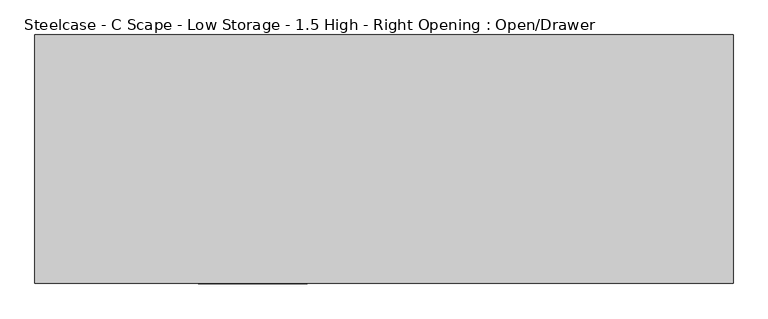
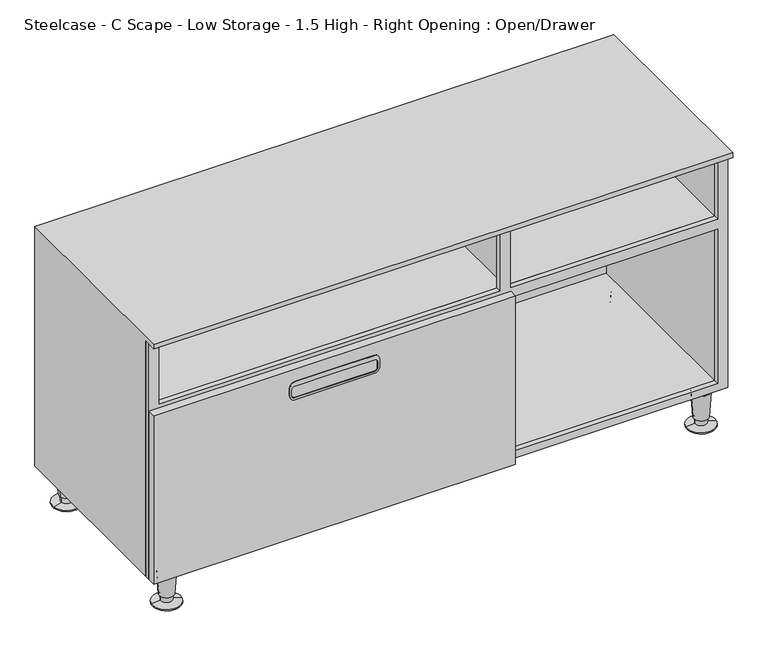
"""IFC4 building model written with IfcOpenShell, lengths in millimetres: furniture geometry, Steelcase - C Scape - Low Storage - 1.5 High - Right Opening : Open/Drawer."""

from ifc_helpers import new_model, si_unit, point, frame, frame_2d, origin, place, context, project, spatial, polyline, circle_curve, trimmed, segment, composite_curve, outline, extrude, faceted_brep, source, transform, mapped, element, save
from ifc_brep_helpers import plane_surface, cylinder_surface, revolved_surface, advanced_brep


def steelcase_c_scape_low_storage_1_5_high_right_opening_open_8f6e77f2(model_context):
    return source(origin(), model_context, "Body", "SolidModel", [
        advanced_brep(
        [(1200.2097985, -403.1210225, 0.0), (1141.9877015, -394.2130493, 0.0), (1171.09875, -398.6670359, 0.0), (1200.2097985, -403.1210225, 2.5119506), (1141.9877015, -394.2130493, 2.5119506), (1182.860915, -400.4666456, 5.7545598), (1159.336585, -396.8674262, 5.7545598), (1183.5496845, -400.5720272, 19.05), (1158.6478155, -396.7620445, 19.05), (1185.9792714, -400.9437537, 19.05), (1156.2182286, -396.3903181, 19.05), (1189.9296195, -401.5481565, 76.2), (1152.2678805, -395.7859153, 76.2), (1171.09875, -398.6670359, 76.2)],
        [
            (0, 1, circle_curve(frame((1171.09875, -398.6670359, 0.0), z_axis=(0.0, 0.0, -1.0), x_axis=(0.0, 1.0, 0.0)), 29.4498071)),
            (1, 2),
            (2, 0),
            (1, 0, circle_curve(frame((1171.09875, -398.6670359, 0.0), z_axis=(0.0, 0.0, -1.0), x_axis=(0.0, 1.0, 0.0)), 29.4498071)),
            (3, 4, circle_curve(frame((1171.09875, -398.6670359, 2.5119506), z_axis=(0.0, 0.0, -1.0), x_axis=(0.0, 1.0, 0.0)), 29.4498071)),
            (4, 1),
            (0, 3),
            (4, 3, circle_curve(frame((1171.09875, -398.6670359, 2.5119506), z_axis=(0.0, 0.0, -1.0), x_axis=(0.0, 1.0, 0.0)), 29.4498071)),
            (5, 6, circle_curve(frame((1171.09875, -398.6670359, 5.7545598), z_axis=(0.0, 0.0, -1.0), x_axis=(0.0, 1.0, 0.0)), 11.8990387)),
            (6, 4),
            (3, 5),
            (6, 5, circle_curve(frame((1171.09875, -398.6670359, 5.7545598), z_axis=(0.0, 0.0, -1.0), x_axis=(0.0, 1.0, 0.0)), 11.8990387)),
            (7, 8, circle_curve(frame((1171.09875, -398.6670359, 19.05), z_axis=(0.0, 0.0, -1.0), x_axis=(0.0, 1.0, 0.0)), 12.5958232)),
            (8, 6),
            (5, 7),
            (8, 7, circle_curve(frame((1171.09875, -398.6670359, 19.05), z_axis=(0.0, 0.0, -1.0), x_axis=(0.0, 1.0, 0.0)), 12.5958232)),
            (9, 10, circle_curve(frame((1171.09875, -398.6670359, 19.05), z_axis=(0.0, 0.0, -1.0), x_axis=(0.0, 1.0, 0.0)), 15.0536827)),
            (10, 8),
            (7, 9),
            (10, 9, circle_curve(frame((1171.09875, -398.6670359, 19.05), z_axis=(0.0, 0.0, -1.0), x_axis=(0.0, 1.0, 0.0)), 15.0536827)),
            (11, 12, circle_curve(frame((1171.09875, -398.6670359, 76.2), z_axis=(0.0, 0.0, -1.0), x_axis=(0.0, 1.0, 0.0)), 19.05)),
            (12, 10),
            (9, 11),
            (12, 11, circle_curve(frame((1171.09875, -398.6670359, 76.2), z_axis=(0.0, 0.0, -1.0), x_axis=(0.0, 1.0, 0.0)), 19.05)),
            (13, 12),
            (11, 13),
        ],
        [
            plane_surface(frame((1171.09875, -398.6670359, 0.0), z_axis=(0.0, 0.0, -1.0), x_axis=(0.0, 1.0, 0.0))),
            cylinder_surface(frame((1171.09875, -398.6670359, 25.4), z_axis=(0.0, 0.0, 1.0), x_axis=(0.0, 1.0, 0.0)), 29.4498071),
            revolved_surface(polyline([(1171.09875, -369.2172288, 2.5119506), (1171.09875, -386.7679972, 5.7545598)]), (1171.09875, -398.6670359, 25.4), (0.0, 0.0, 1.0)),
            revolved_surface(polyline([(1171.09875, -386.7679972, 5.7545598), (1171.09875, -386.0712127, 19.05)]), (1171.09875, -398.6670359, 25.4), (0.0, 0.0, 1.0)),
            plane_surface(frame((1171.09875, -398.6670359, 19.05), z_axis=(0.0, 0.0, -1.0), x_axis=(0.0, 1.0, 0.0))),
            revolved_surface(polyline([(1171.09875, -383.6133532, 19.05), (1171.09875, -379.6170359, 76.2)]), (1171.09875, -398.6670359, 25.4), (0.0, 0.0, 1.0)),
            plane_surface(frame((1171.09875, -398.6670359, 76.2), z_axis=(0.0, 0.0, 1.0), x_axis=(0.0, 1.0, 0.0))),
        ],
        [
            (0, [[1, 2, 3]]),
            (0, [[4, -3, -2]]),
            (1, [[5, 6, -1, 7]]),
            (1, [[8, -7, -4, -6]]),
            (2, [[9, 10, -5, 11]]),
            (2, [[12, -11, -8, -10]]),
            (3, [[13, 14, -9, 15]]),
            (3, [[16, -15, -12, -14]]),
            (4, [[17, 18, -13, 19]]),
            (4, [[20, -19, -16, -18]]),
            (5, [[21, 22, -17, 23]]),
            (5, [[24, -23, -20, -22]]),
            (6, [[25, -21, 26]]),
            (6, [[-26, -24, -25]]),
        ],
    ),
        advanced_brep(
        [(75.8224611, -403.1210225, 0.0), (17.6003641, -394.2130493, 0.0), (46.7114126, -398.6670359, 0.0), (75.8224611, -403.1210225, 2.5119506), (17.6003641, -394.2130493, 2.5119506), (58.4735776, -400.4666456, 5.7545598), (34.9492476, -396.8674262, 5.7545598), (59.1623471, -400.5720272, 19.05), (34.2604781, -396.7620445, 19.05), (61.5919341, -400.9437537, 19.05), (31.8308912, -396.3903181, 19.05), (65.5422821, -401.5481565, 76.2), (27.8805432, -395.7859153, 76.2), (46.7114126, -398.6670359, 76.2)],
        [
            (0, 1, circle_curve(frame((46.7114126, -398.6670359, 0.0), z_axis=(0.0, 0.0, -1.0), x_axis=(0.0, 1.0, 0.0)), 29.4498071)),
            (1, 2),
            (2, 0),
            (1, 0, circle_curve(frame((46.7114126, -398.6670359, 0.0), z_axis=(0.0, 0.0, -1.0), x_axis=(0.0, 1.0, 0.0)), 29.4498071)),
            (3, 4, circle_curve(frame((46.7114126, -398.6670359, 2.5119506), z_axis=(0.0, 0.0, -1.0), x_axis=(0.0, 1.0, 0.0)), 29.4498071)),
            (4, 1),
            (0, 3),
            (4, 3, circle_curve(frame((46.7114126, -398.6670359, 2.5119506), z_axis=(0.0, 0.0, -1.0), x_axis=(0.0, 1.0, 0.0)), 29.4498071)),
            (5, 6, circle_curve(frame((46.7114126, -398.6670359, 5.7545598), z_axis=(0.0, 0.0, -1.0), x_axis=(0.0, 1.0, 0.0)), 11.8990387)),
            (6, 4),
            (3, 5),
            (6, 5, circle_curve(frame((46.7114126, -398.6670359, 5.7545598), z_axis=(0.0, 0.0, -1.0), x_axis=(0.0, 1.0, 0.0)), 11.8990387)),
            (7, 8, circle_curve(frame((46.7114126, -398.6670359, 19.05), z_axis=(0.0, 0.0, -1.0), x_axis=(0.0, 1.0, 0.0)), 12.5958232)),
            (8, 6),
            (5, 7),
            (8, 7, circle_curve(frame((46.7114126, -398.6670359, 19.05), z_axis=(0.0, 0.0, -1.0), x_axis=(0.0, 1.0, 0.0)), 12.5958232)),
            (9, 10, circle_curve(frame((46.7114126, -398.6670359, 19.05), z_axis=(0.0, 0.0, -1.0), x_axis=(0.0, 1.0, 0.0)), 15.0536827)),
            (10, 8),
            (7, 9),
            (10, 9, circle_curve(frame((46.7114126, -398.6670359, 19.05), z_axis=(0.0, 0.0, -1.0), x_axis=(0.0, 1.0, 0.0)), 15.0536827)),
            (11, 12, circle_curve(frame((46.7114126, -398.6670359, 76.2), z_axis=(0.0, 0.0, -1.0), x_axis=(0.0, 1.0, 0.0)), 19.05)),
            (12, 10),
            (9, 11),
            (12, 11, circle_curve(frame((46.7114126, -398.6670359, 76.2), z_axis=(0.0, 0.0, -1.0), x_axis=(0.0, 1.0, 0.0)), 19.05)),
            (13, 12),
            (11, 13),
        ],
        [
            plane_surface(frame((46.7114126, -398.6670359, 0.0), z_axis=(0.0, 0.0, -1.0), x_axis=(0.0, 1.0, 0.0))),
            cylinder_surface(frame((46.7114126, -398.6670359, 25.4), z_axis=(0.0, 0.0, 1.0), x_axis=(0.0, 1.0, 0.0)), 29.4498071),
            revolved_surface(polyline([(46.7114126, -369.2172288, 2.5119506), (46.7114126, -386.7679972, 5.7545598)]), (46.7114126, -398.6670359, 25.4), (0.0, 0.0, 1.0)),
            revolved_surface(polyline([(46.7114126, -386.7679972, 5.7545598), (46.7114126, -386.0712127, 19.05)]), (46.7114126, -398.6670359, 25.4), (0.0, 0.0, 1.0)),
            plane_surface(frame((46.7114126, -398.6670359, 19.05), z_axis=(0.0, 0.0, -1.0), x_axis=(0.0, 1.0, 0.0))),
            revolved_surface(polyline([(46.7114126, -383.6133532, 19.05), (46.7114126, -379.6170359, 76.2)]), (46.7114126, -398.6670359, 25.4), (0.0, 0.0, 1.0)),
            plane_surface(frame((46.7114126, -398.6670359, 76.2), z_axis=(0.0, 0.0, 1.0), x_axis=(0.0, 1.0, 0.0))),
        ],
        [
            (0, [[1, 2, 3]]),
            (0, [[4, -3, -2]]),
            (1, [[5, 6, -1, 7]]),
            (1, [[8, -7, -4, -6]]),
            (2, [[9, 10, -5, 11]]),
            (2, [[12, -11, -8, -10]]),
            (3, [[13, 14, -9, 15]]),
            (3, [[16, -15, -12, -14]]),
            (4, [[17, 18, -13, 19]]),
            (4, [[20, -19, -16, -18]]),
            (5, [[21, 22, -17, 23]]),
            (5, [[24, -23, -20, -22]]),
            (6, [[25, -21, 26]]),
            (6, [[-26, -24, -25]]),
        ],
    ),
        extrude(outline(polyline([(599.44, 1217.93), (599.44, 0.0), (76.2, 0.0), (76.2, 1217.93), (599.44, 1217.93)]), holes=[polyline([(436.9435121, 21.3256814), (436.9435121, 738.5047189), (92.7100024, 738.5047189), (92.7100024, 21.3256814), (436.9435121, 21.3256814)]), polyline([(92.7100024, 1196.5961479), (92.7100024, 761.365), (436.9435121, 761.365), (436.9435121, 1196.5961479), (92.7100024, 1196.5961479)]), polyline([(585.724, 1196.5961479), (458.7875121, 1196.5961479), (458.7875121, 761.365), (585.724, 761.365), (585.724, 1196.5961479)]), polyline([(585.724, 21.3382324), (585.724, 738.5047189), (458.7875121, 738.5047189), (458.7875121, 21.3382324), (585.724, 21.3382324)])]), frame((0.0, -415.2912402, 0.0), z_axis=(0.0, 1.0, 0.0), x_axis=(0.0, 0.0, 1.0)), (0.0, 0.0, 1.0), 10.9228992),
        extrude(outline(composite_curve([segment(trimmed(circle_curve(frame_2d((410.7179932, 297.8147442)), 12.7), [point((423.4179932, 297.8147442))], [point((410.7179932, 285.1147442))], False, "CARTESIAN"), True, "CONTINUOUS"), segment(polyline([(410.7179932, 285.1147442), (396.1130223, 285.1147442)]), True, "CONTINUOUS"), segment(trimmed(circle_curve(frame_2d((396.1130223, 297.8147442)), 12.7), [point((396.1130223, 285.1147442))], [point((383.4130223, 297.8147442))], False, "CARTESIAN"), True, "CONTINUOUS"), segment(polyline([(383.4130223, 297.8147442), (383.4130223, 380.0475), (383.4130223, 462.2802558)]), True, "CONTINUOUS"), segment(trimmed(circle_curve(frame_2d((396.1130223, 462.2802558)), 12.7), [point((383.4130223, 462.2802558))], [point((396.1130223, 474.9802558))], False, "CARTESIAN"), True, "CONTINUOUS"), segment(polyline([(396.1130223, 474.9802558), (410.7179932, 474.9802558)]), True, "CONTINUOUS"), segment(trimmed(circle_curve(frame_2d((410.7179932, 462.2802558)), 12.7), [point((410.7179932, 474.9802558))], [point((423.4179932, 462.2802558))], False, "CARTESIAN"), True, "CONTINUOUS"), segment(polyline([(423.4179932, 462.2802558), (423.4179932, 380.0475), (423.4179932, 297.8147442)]), True, "CONTINUOUS")], self_intersect=False), holes=[composite_curve([segment(trimmed(circle_curve(frame_2d((407.2890116, 296.2923565)), 6.35), [point((407.2890116, 289.9423565))], [point((413.6390116, 296.2923565))], True, "CARTESIAN"), True, "CONTINUOUS"), segment(polyline([(413.6390116, 296.2923565), (413.6390116, 380.0475), (413.6390116, 463.8026435)]), True, "CONTINUOUS"), segment(trimmed(circle_curve(frame_2d((407.2890116, 463.8026435)), 6.35), [point((413.6390116, 463.8026435))], [point((407.2890116, 470.1526435))], True, "CARTESIAN"), True, "CONTINUOUS"), segment(polyline([(407.2890116, 470.1526435), (394.5889995, 470.1526435)]), True, "CONTINUOUS"), segment(trimmed(circle_curve(frame_2d((394.5889995, 463.8026435)), 6.35), [point((394.5889995, 470.1526435))], [point((388.2389995, 463.8026435))], True, "CARTESIAN"), True, "CONTINUOUS"), segment(polyline([(388.2389995, 463.8026435), (388.2389995, 380.0475), (388.2389995, 296.2923565)]), True, "CONTINUOUS"), segment(trimmed(circle_curve(frame_2d((394.5889995, 296.2923565)), 6.35), [point((388.2389995, 296.2923565))], [point((394.5889995, 289.9423565))], True, "CARTESIAN"), True, "CONTINUOUS"), segment(polyline([(394.5889995, 289.9423565), (407.2890116, 289.9423565)]), True, "CONTINUOUS")], self_intersect=False)]), frame((0.0, -434.34, 0.0), z_axis=(0.0, 1.0, 0.0), x_axis=(0.0, 0.0, 1.0)), (0.0, 0.0, 1.0), 6.35),
        advanced_brep(
        [(1189.9296195, -31.5218435, 76.2), (1152.2678805, -37.2840847, 76.2), (1171.09875, -34.4029641, 76.2), (1185.9792714, -32.1262463, 19.05), (1156.2182286, -36.6796819, 19.05), (1183.5496845, -32.4979728, 19.05), (1158.6478155, -36.3079555, 19.05), (1182.860915, -32.6033544, 5.7545598), (1159.336585, -36.2025738, 5.7545598), (1200.2097985, -29.9489775, 2.5119506), (1141.9877015, -38.8569507, 2.5119506), (1200.2097985, -29.9489775, 0.0), (1141.9877015, -38.8569507, 0.0), (1171.09875, -34.4029641, 0.0)],
        [
            (0, 1, circle_curve(frame((1171.09875, -34.4029641, 76.2), z_axis=(0.0, 0.0, 1.0), x_axis=(0.0, -1.0, 0.0)), 19.05)),
            (1, 2),
            (2, 0),
            (1, 0, circle_curve(frame((1171.09875, -34.4029641, 76.2), z_axis=(0.0, 0.0, 1.0), x_axis=(0.0, -1.0, 0.0)), 19.05)),
            (3, 4, circle_curve(frame((1171.09875, -34.4029641, 19.05), z_axis=(0.0, 0.0, 1.0), x_axis=(0.0, -1.0, 0.0)), 15.0536827)),
            (4, 1),
            (0, 3),
            (4, 3, circle_curve(frame((1171.09875, -34.4029641, 19.05), z_axis=(0.0, 0.0, 1.0), x_axis=(0.0, -1.0, 0.0)), 15.0536827)),
            (5, 6, circle_curve(frame((1171.09875, -34.4029641, 19.05), z_axis=(0.0, 0.0, 1.0), x_axis=(0.0, -1.0, 0.0)), 12.5958232)),
            (6, 4),
            (3, 5),
            (6, 5, circle_curve(frame((1171.09875, -34.4029641, 19.05), z_axis=(0.0, 0.0, 1.0), x_axis=(0.0, -1.0, 0.0)), 12.5958232)),
            (7, 8, circle_curve(frame((1171.09875, -34.4029641, 5.7545598), z_axis=(0.0, 0.0, 1.0), x_axis=(0.0, -1.0, 0.0)), 11.8990387)),
            (8, 6),
            (5, 7),
            (8, 7, circle_curve(frame((1171.09875, -34.4029641, 5.7545598), z_axis=(0.0, 0.0, 1.0), x_axis=(0.0, -1.0, 0.0)), 11.8990387)),
            (9, 10, circle_curve(frame((1171.09875, -34.4029641, 2.5119506), z_axis=(0.0, 0.0, 1.0), x_axis=(0.0, -1.0, 0.0)), 29.4498071)),
            (10, 8),
            (7, 9),
            (10, 9, circle_curve(frame((1171.09875, -34.4029641, 2.5119506), z_axis=(0.0, 0.0, 1.0), x_axis=(0.0, -1.0, 0.0)), 29.4498071)),
            (11, 12, circle_curve(frame((1171.09875, -34.4029641, 0.0), z_axis=(0.0, 0.0, 1.0), x_axis=(0.0, -1.0, 0.0)), 29.4498071)),
            (12, 10),
            (9, 11),
            (12, 11, circle_curve(frame((1171.09875, -34.4029641, 0.0), z_axis=(0.0, 0.0, 1.0), x_axis=(0.0, -1.0, 0.0)), 29.4498071)),
            (13, 12),
            (11, 13),
        ],
        [
            plane_surface(frame((1171.09875, -34.4029641, 76.2), z_axis=(0.0, 0.0, 1.0), x_axis=(0.0, -1.0, 0.0))),
            revolved_surface(polyline([(1171.09875, -53.4529641, 76.2), (1171.09875, -49.4566468, 19.05)]), (1171.09875, -34.4029641, 25.4), (0.0, 0.0, -1.0)),
            plane_surface(frame((1171.09875, -34.4029641, 19.05), z_axis=(0.0, 0.0, -1.0), x_axis=(0.0, -1.0, 0.0))),
            revolved_surface(polyline([(1171.09875, -46.9987873, 19.05), (1171.09875, -46.3020028, 5.7545598)]), (1171.09875, -34.4029641, 25.4), (0.0, 0.0, -1.0)),
            revolved_surface(polyline([(1171.09875, -46.3020028, 5.7545598), (1171.09875, -63.8527712, 2.5119506)]), (1171.09875, -34.4029641, 25.4), (0.0, 0.0, -1.0)),
            cylinder_surface(frame((1171.09875, -34.4029641, 25.4), z_axis=(0.0, 0.0, -1.0), x_axis=(0.0, -1.0, 0.0)), 29.4498071),
            plane_surface(frame((1171.09875, -34.4029641, 0.0), z_axis=(0.0, 0.0, -1.0), x_axis=(0.0, -1.0, 0.0))),
        ],
        [
            (0, [[1, 2, 3]]),
            (0, [[4, -3, -2]]),
            (1, [[5, 6, -1, 7]]),
            (1, [[8, -7, -4, -6]]),
            (2, [[9, 10, -5, 11]]),
            (2, [[12, -11, -8, -10]]),
            (3, [[13, 14, -9, 15]]),
            (3, [[16, -15, -12, -14]]),
            (4, [[17, 18, -13, 19]]),
            (4, [[20, -19, -16, -18]]),
            (5, [[21, 22, -17, 23]]),
            (5, [[24, -23, -20, -22]]),
            (6, [[25, -21, 26]]),
            (6, [[-26, -24, -25]]),
        ],
    ),
        advanced_brep(
        [(65.5422821, -31.5218435, 76.2), (27.8805432, -37.2840847, 76.2), (46.7114126, -34.4029641, 76.2), (61.5919341, -32.1262463, 19.05), (31.8308912, -36.6796819, 19.05), (59.1623471, -32.4979728, 19.05), (34.2604781, -36.3079555, 19.05), (58.4735776, -32.6033544, 5.7545598), (34.9492476, -36.2025738, 5.7545598), (75.8224611, -29.9489775, 2.5119506), (17.6003641, -38.8569507, 2.5119506), (75.8224611, -29.9489775, 0.0), (17.6003641, -38.8569507, 0.0), (46.7114126, -34.4029641, 0.0)],
        [
            (0, 1, circle_curve(frame((46.7114126, -34.4029641, 76.2), z_axis=(0.0, 0.0, 1.0), x_axis=(0.0, -1.0, 0.0)), 19.05)),
            (1, 2),
            (2, 0),
            (1, 0, circle_curve(frame((46.7114126, -34.4029641, 76.2), z_axis=(0.0, 0.0, 1.0), x_axis=(0.0, -1.0, 0.0)), 19.05)),
            (3, 4, circle_curve(frame((46.7114126, -34.4029641, 19.05), z_axis=(0.0, 0.0, 1.0), x_axis=(0.0, -1.0, 0.0)), 15.0536827)),
            (4, 1),
            (0, 3),
            (4, 3, circle_curve(frame((46.7114126, -34.4029641, 19.05), z_axis=(0.0, 0.0, 1.0), x_axis=(0.0, -1.0, 0.0)), 15.0536827)),
            (5, 6, circle_curve(frame((46.7114126, -34.4029641, 19.05), z_axis=(0.0, 0.0, 1.0), x_axis=(0.0, -1.0, 0.0)), 12.5958232)),
            (6, 4),
            (3, 5),
            (6, 5, circle_curve(frame((46.7114126, -34.4029641, 19.05), z_axis=(0.0, 0.0, 1.0), x_axis=(0.0, -1.0, 0.0)), 12.5958232)),
            (7, 8, circle_curve(frame((46.7114126, -34.4029641, 5.7545598), z_axis=(0.0, 0.0, 1.0), x_axis=(0.0, -1.0, 0.0)), 11.8990387)),
            (8, 6),
            (5, 7),
            (8, 7, circle_curve(frame((46.7114126, -34.4029641, 5.7545598), z_axis=(0.0, 0.0, 1.0), x_axis=(0.0, -1.0, 0.0)), 11.8990387)),
            (9, 10, circle_curve(frame((46.7114126, -34.4029641, 2.5119506), z_axis=(0.0, 0.0, 1.0), x_axis=(0.0, -1.0, 0.0)), 29.4498071)),
            (10, 8),
            (7, 9),
            (10, 9, circle_curve(frame((46.7114126, -34.4029641, 2.5119506), z_axis=(0.0, 0.0, 1.0), x_axis=(0.0, -1.0, 0.0)), 29.4498071)),
            (11, 12, circle_curve(frame((46.7114126, -34.4029641, 0.0), z_axis=(0.0, 0.0, 1.0), x_axis=(0.0, -1.0, 0.0)), 29.4498071)),
            (12, 10),
            (9, 11),
            (12, 11, circle_curve(frame((46.7114126, -34.4029641, 0.0), z_axis=(0.0, 0.0, 1.0), x_axis=(0.0, -1.0, 0.0)), 29.4498071)),
            (13, 12),
            (11, 13),
        ],
        [
            plane_surface(frame((46.7114126, -34.4029641, 76.2), z_axis=(0.0, 0.0, 1.0), x_axis=(0.0, -1.0, 0.0))),
            revolved_surface(polyline([(46.7114126, -53.4529641, 76.2), (46.7114126, -49.4566468, 19.05)]), (46.7114126, -34.4029641, 25.4), (0.0, 0.0, -1.0)),
            plane_surface(frame((46.7114126, -34.4029641, 19.05), z_axis=(0.0, 0.0, -1.0), x_axis=(0.0, -1.0, 0.0))),
            revolved_surface(polyline([(46.7114126, -46.9987873, 19.05), (46.7114126, -46.3020028, 5.7545598)]), (46.7114126, -34.4029641, 25.4), (0.0, 0.0, -1.0)),
            revolved_surface(polyline([(46.7114126, -46.3020028, 5.7545598), (46.7114126, -63.8527712, 2.5119506)]), (46.7114126, -34.4029641, 25.4), (0.0, 0.0, -1.0)),
            cylinder_surface(frame((46.7114126, -34.4029641, 25.4), z_axis=(0.0, 0.0, -1.0), x_axis=(0.0, -1.0, 0.0)), 29.4498071),
            plane_surface(frame((46.7114126, -34.4029641, 0.0), z_axis=(0.0, 0.0, -1.0), x_axis=(0.0, -1.0, 0.0))),
        ],
        [
            (0, [[1, 2, 3]]),
            (0, [[4, -3, -2]]),
            (1, [[5, 6, -1, 7]]),
            (1, [[8, -7, -4, -6]]),
            (2, [[9, 10, -5, 11]]),
            (2, [[12, -11, -8, -10]]),
            (3, [[13, 14, -9, 15]]),
            (3, [[16, -15, -12, -14]]),
            (4, [[17, 18, -13, 19]]),
            (4, [[20, -19, -16, -18]]),
            (5, [[21, 22, -17, 23]]),
            (5, [[24, -23, -20, -22]]),
            (6, [[25, -21, 26]]),
            (6, [[-26, -24, -25]]),
        ],
    ),
        faceted_brep([(0.0, 0.0, 609.6), (1217.93, 0.0, 609.6), (1217.93, 0.0, 76.2), (0.0, 0.0, 76.2), (0.0, -433.07, 609.6), (0.0, -404.3683411, 76.2), (0.0, -404.3683411, 599.44), (0.0, -433.07, 599.44), (21.3382324, -404.3683411, 599.44), (1217.93, -404.3683411, 76.2), (1217.93, -404.3683411, 599.44), (1196.5961479, -404.3683411, 599.44), (1196.5961479, -404.3683411, 458.7875121), (760.73, -404.3683411, 458.7875121), (760.73, -404.3683411, 599.44), (754.3812797, -404.3683411, 599.44), (754.3812797, -404.3683411, 458.7875121), (21.3382324, -404.3683411, 458.7875121), (1196.5961479, -404.3683411, 450.8499879), (1196.5961479, -404.3683411, 92.7100024), (760.73, -404.3683411, 92.7100024), (760.73, -404.3683411, 450.8499879), (754.3812797, -404.3683411, 450.8499879), (754.3812797, -404.3683411, 92.7100024), (21.3382324, -404.3683411, 92.7100024), (21.3382324, -404.3683411, 450.8499879), (21.3382324, -9.525, 599.44), (21.3382324, -9.525, 458.7875121), (21.3382324, -9.525, 92.7100024), (21.3382324, -9.525, 450.8499879), (754.3812797, -9.525, 599.44), (754.3812797, -9.525, 458.7875121), (754.3812797, -9.525, 92.7100024), (754.3812797, -9.525, 450.8499879), (760.73, -9.525, 599.44), (760.73, -9.525, 458.7875121), (760.73, -9.525, 92.7100024), (760.73, -9.525, 450.8499879), (1196.5961479, -9.525, 599.44), (1196.5961479, -9.525, 458.7875121), (1196.5961479, -9.525, 92.7100024), (1196.5961479, -9.525, 450.8499879), (1217.93, -433.07, 609.6), (1217.93, -433.07, 599.44)], [[[0, 1, 2, 3]], [[4, 0, 3, 5, 6, 7]], [[8, 6, 5, 9, 10, 11, 12, 13, 14, 15, 16, 17], [18, 19, 20, 21], [22, 23, 24, 25]], [[26, 8, 17, 27]], [[25, 24, 28, 29]], [[30, 26, 27, 31]], [[29, 28, 32, 33]], [[15, 30, 31, 16]], [[33, 32, 23, 22]], [[34, 14, 13, 35]], [[21, 20, 36, 37]], [[38, 34, 35, 39]], [[37, 36, 40, 41]], [[11, 38, 39, 12]], [[41, 40, 19, 18]], [[2, 1, 42, 43, 10, 9]], [[1, 0, 4, 42]], [[43, 7, 6, 8, 26, 30, 15, 14, 34, 38, 11, 10]], [[42, 4, 7, 43]], [[13, 12, 39, 35]], [[17, 16, 31, 27]], [[18, 21, 37, 41]], [[22, 25, 29, 33]], [[20, 19, 40, 36]], [[24, 23, 32, 28]], [[2, 9, 5, 3]]]),
        extrude(outline(polyline([(760.73, -415.2912402), (760.73, -433.07), (0.0, -433.07), (0.0, -415.2912402), (760.73, -415.2912402)])), frame((0.0, 0.0, 76.2), z_axis=(0.0, 0.0, 1.0), x_axis=(1.0, 0.0, 0.0)), (0.0, 0.0, 1.0), 374.6499879),
    ])


if __name__ == "__main__":
    model = new_model("IFC4")
    model_context = context("Model", 3, world=origin())
    ifc_project = project(units=[si_unit("LENGTHUNIT", "METRE", prefix="MILLI")], contexts=[model_context])
    site = spatial("IfcSite", under=ifc_project)
    building = spatial("IfcBuilding", under=site)
    placement = place(None, origin())
    steelcase_c_scape_low_storage_1_5_high_right_opening_open_shape = steelcase_c_scape_low_storage_1_5_high_right_opening_open_8f6e77f2(model_context)
    element("IfcFurniture", 1, ObjectType="Steelcase - C Scape - Low Storage - 1.5 High - Right Opening : Open/Drawer", at=placement, inside=building, context=model_context, shape_type="MappedRepresentation", body=[
        mapped(steelcase_c_scape_low_storage_1_5_high_right_opening_open_shape, transform((0.0, 0.0, 0.0), x_axis=(1.0, 0.0, 0.0), y_axis=(0.0, 1.0, 0.0), z_axis=(0.0, 0.0, 1.0))),
    ])
    save(model, "model.ifc")
